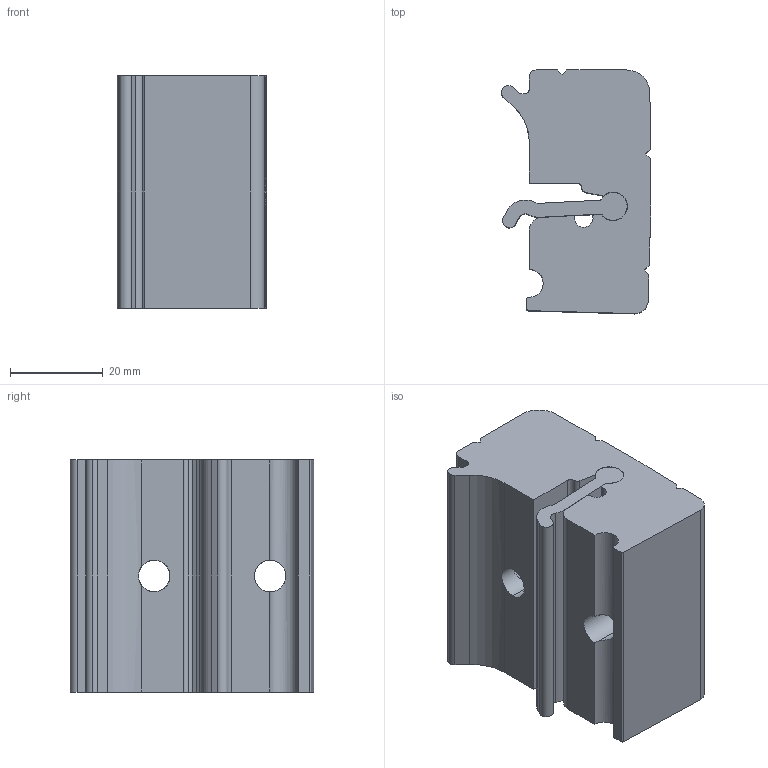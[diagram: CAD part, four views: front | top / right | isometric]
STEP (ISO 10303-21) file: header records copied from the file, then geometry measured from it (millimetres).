
FILE_DESCRIPTION (( 'STEP AP214' ), '1' );
FILE_NAME ('R1 SL32-SL50.step', '2017-04-05T07:50:35', ( '' ), ( '' ), 'SwSTEP 2.0', 'SolidWorks 2015', '' );
FILE_SCHEMA (( 'AUTOMOTIVE_DESIGN' ));
Length unit declared in the file: millimetre
Products named in the file (1): R1 SL32-SL50
Bounding box: 32.17 x 52.5 x 50 mm (x, y, z)
Volume: 63298 mm3; surface area: 17460.1 mm2
Topology: 2 solids, 2 shells, 81 faces, 239 edges, 154 vertices
Faces by surface type: cylinder 41, plane 38, cone 2
Entity records: 2926 total; most frequent: CARTESIAN_POINT 612, ORIENTED_EDGE 478, DIRECTION 447, EDGE_CURVE 239, AXIS2_PLACEMENT_3D 155, VERTEX_POINT 154, VECTOR 137, LINE 137
